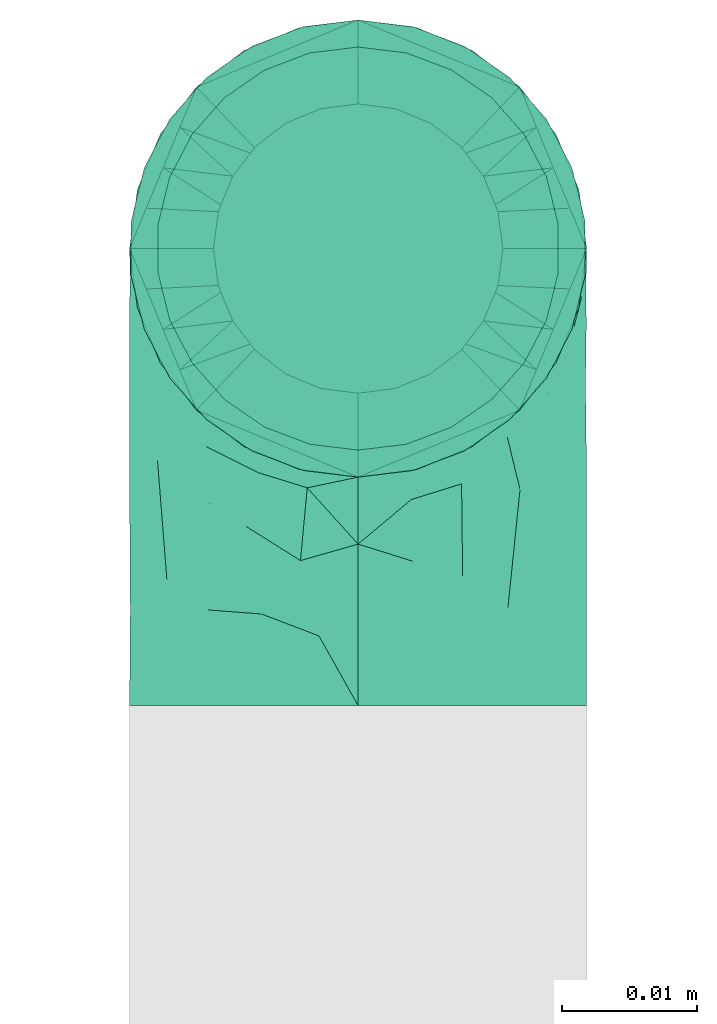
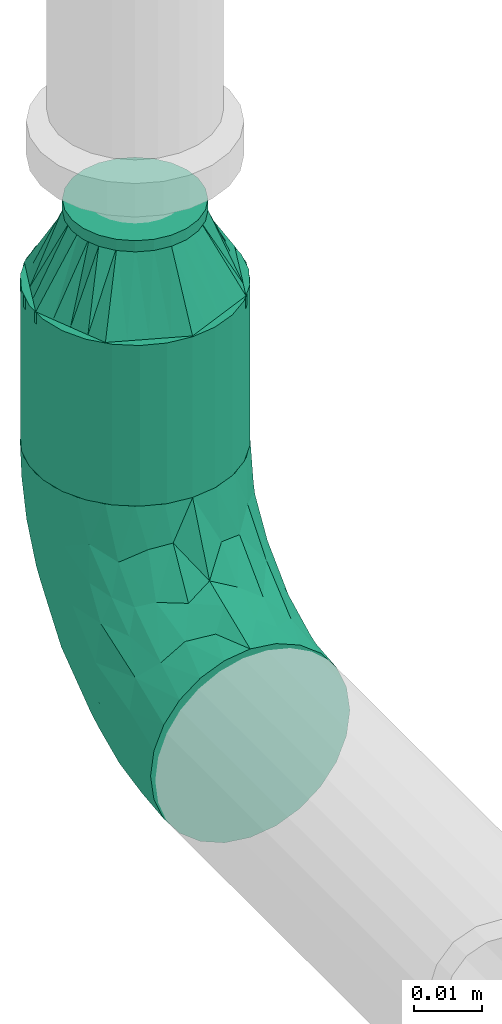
# One storey, part 16 of 31: 2 flow fittings, 1 flow segment.
"""IFC2X3 building model written with IfcOpenShell, lengths in millimetres."""

from ifc_helpers import new_model, entity, si_unit, converted_unit, derived_unit, direction, frame, origin_with_axes, origin_2d_with_axis, place, context, subcontext, project, spatial, hollow_circle, extrude, open_shell, surface_model, source, transform, mapped, type_object, element, save


model = new_model("IFC2X3")

# Units and contexts
model_context = context("Model", 3, precision=0.01, world=frame((0.0, 4.29681676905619e-09, 0.0)), true_north=direction((4.01073788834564e-13, 1.0)))
plan_context = context("Plan", 3, precision=0.01, world=frame((0.0, 4.29681676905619e-09, 0.0)), true_north=direction((4.01073788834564e-13, 1.0)))
body_context = subcontext(model_context, "Body", "Model", "MODEL_VIEW")
ifc_project = project(units=[converted_unit("PLANEANGLEUNIT", "DEGREE", entity("IfcPositiveLengthMeasure", 0.0174532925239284), si_unit("PLANEANGLEUNIT", "RADIAN"), dimensions=[0, 0, 0, 0, 0, 0, 0]), si_unit("AREAUNIT", "SQUARE_METRE"), si_unit("LENGTHUNIT", "METRE", prefix="MILLI"), si_unit("MASSUNIT", "GRAM", prefix="KILO"), si_unit("POWERUNIT", "WATT"), si_unit("PRESSUREUNIT", "PASCAL", prefix="KILO"), si_unit("FORCEUNIT", "NEWTON", prefix="KILO"), si_unit("ELECTRICVOLTAGEUNIT", "VOLT"), si_unit("ELECTRICCURRENTUNIT", "AMPERE"), si_unit("THERMODYNAMICTEMPERATUREUNIT", "DEGREE_CELSIUS"), si_unit("TIMEUNIT", "SECOND"), si_unit("VOLUMEUNIT", "CUBIC_METRE"), derived_unit("LINEARVELOCITYUNIT", [(si_unit("LENGTHUNIT", "METRE"), 1), (si_unit("TIMEUNIT", "SECOND"), -1)]), derived_unit("VOLUMETRICFLOWRATEUNIT", [(si_unit("VOLUMEUNIT", "CUBIC_METRE"), 1), (si_unit("TIMEUNIT", "SECOND"), -1)]), derived_unit("THERMALTRANSMITTANCEUNIT", [(si_unit("POWERUNIT", "WATT"), 1), (si_unit("THERMODYNAMICTEMPERATUREUNIT", "KELVIN"), -1), (si_unit("AREAUNIT", "SQUARE_METRE"), -1)]), derived_unit("SOUNDPRESSUREUNIT", [(si_unit("PRESSUREUNIT", "PASCAL"), 1)])], contexts=[model_context, plan_context])

# Site, building, storey
site_placement = place(None, frame((0.0, -4.29681676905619e-09, 0.0), z_axis=(0.0, 0.0, 1.0), x_axis=(1.0, 0.0, 0.0)))
site = spatial("IfcSite", under=ifc_project, at=site_placement, CompositionType="ELEMENT")
building_placement = place(site_placement, frame((0.0, 4.29681676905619e-09, 0.0), z_axis=(0.0, 0.0, 1.0), x_axis=(1.0, 0.0, 0.0)))
building = spatial("IfcBuilding", under=site, at=building_placement, Name="mc-building", CompositionType="ELEMENT")
storey_placement = place(building_placement, frame((0.0, 0.0, 200300.0), z_axis=(0.0, 0.0, 1.0), x_axis=(1.0, 0.0, 0.0)))
storey = spatial("IfcBuildingStorey", under=building, at=storey_placement, Name="Nivå C", CompositionType="ELEMENT", Elevation=200300.0)

# Flow fittings
pipe_fitting_type_1 = type_object("IfcPipeFittingType", Name="magi_pipe_fe_reducer_centric_short_NOR", PredefinedType="TRANSITION")
shared_shape_1 = source(origin_with_axes(), body_context, "Body", "SurfaceModel", [
    surface_model("IfcShellBasedSurfaceModel", [(14.4, 5.35, -9.26647), (14.4, 0.0, -10.7), (14.4, 2.76936, -10.33541), (14.4, 10.33541, -2.76936), (14.4, 7.56604, -7.56604), (14.4, -10.33541, -2.76936), (14.4, 9.26647, -5.35), (14.4, 0.0, 10.7), (14.4, -5.35, -9.26647), (14.4, -2.76936, -10.33541), (14.4, -7.56604, -7.56604), (14.4, -9.26647, -5.35), (14.4, 10.7, 0.0), (14.4, 10.33541, 2.76936), (14.4, 9.26647, 5.35), (14.4, 7.56604, 7.56604), (14.4, 2.76936, 10.33541), (14.4, 5.35, 9.26647), (14.4, -10.33541, 2.76936), (14.4, -7.56604, 7.56604), (14.4, -9.26647, 5.35), (14.4, -10.7, 0.0), (14.4, -2.76936, 10.33541), (14.4, -5.35, 9.26647), (12.4, 2.76936, 10.33541), (12.4, -10.33541, -2.76936), (12.4, 0.0, 10.7), (12.4, 5.35, 9.26647), (12.4, 7.56604, 7.56604), (12.4, 9.26647, 5.35), (12.4, 10.33541, 2.76936), (12.4, -10.33541, 2.76936), (12.4, -2.76936, 10.33541), (12.4, -7.56604, 7.56604), (12.4, -5.35, 9.26647), (12.4, -9.26647, 5.35), (12.4, -10.7, 0.0), (12.4, 10.33541, -2.76936), (12.4, 5.35, -9.26647), (12.4, 9.26647, -5.35), (12.4, 7.56604, -7.56604), (12.4, 2.76936, -10.33541), (12.4, -9.26647, -5.35), (12.4, -5.35, -9.26647), (12.4, -7.56604, -7.56604), (12.4, 0.0, -10.7), (12.4, -2.76936, -10.33541), (12.4, 10.7, 0.0), (-2.0, 11.9501, 11.9501), (-2.0, 0.0, 16.9), (-2.0, 4.37404, 16.32415), (-2.0, 8.45, 14.63583), (-2.0, 14.63583, 8.45), (-2.0, 16.32415, 4.37404), (-2.0, -16.32415, 4.37404), (-2.0, -8.45, 14.63583), (-2.0, -14.63583, 8.45), (-2.0, -11.9501, 11.9501), (-2.0, -4.37404, 16.32415), (-2.0, -16.32415, -4.37404), (-2.0, -16.9, 0.0), (-2.0, -8.45, -14.63583), (-2.0, 16.32415, -4.37404), (-2.0, 11.9501, -11.9501), (-2.0, 14.63583, -8.45), (-2.0, 8.45, -14.63583), (-2.0, 4.37404, -16.32415), (-2.0, 0.0, -16.9), (-2.0, -11.9501, -11.9501), (-2.0, -14.63583, -8.45), (-2.0, -4.37404, -16.32415), (-2.0, 16.9, 0.0), (0.0, 4.37404, -16.32415), (0.0, 8.45, -14.63583), (0.0, 11.9501, -11.9501), (0.0, 0.0, -16.9), (0.0, 16.32415, -4.37404), (0.0, 16.32415, 4.37404), (0.0, 14.63583, -8.45), (0.0, -8.45, -14.63583), (0.0, -4.37404, -16.32415), (0.0, -11.9501, -11.9501), (0.0, -16.32415, -4.37404), (0.0, -14.63583, -8.45), (0.0, -16.32415, 4.37404), (0.0, 16.9, 0.0), (0.0, 14.63583, 8.45), (0.0, 11.9501, 11.9501), (0.0, 4.37404, 16.32415), (0.0, 8.45, 14.63583), (0.0, 0.0, 16.9), (0.0, -14.63583, 8.45), (0.0, -16.9, 0.0), (0.0, -8.45, 14.63583), (0.0, -11.9501, 11.9501), (0.0, -4.37404, 16.32415), (12.4, 9.3625, -2.31662), (0.0, 14.42505, -5.97505), (0.0, 15.66253, -2.98753), (12.4, -6.6875, -6.94985), (0.0, -13.18758, -8.96258), (0.0, 2.98753, -15.66253), (12.4, 0.0, -9.26647), (12.4, 6.6875, -6.94985), (0.0, 8.96258, -13.18758), (12.4, -9.3625, -2.31662), (0.0, -15.66253, -2.98753), (0.0, -14.42505, -5.97505), (0.0, 5.97505, -14.42505), (0.0, -2.98753, -15.66253), (0.0, -8.96258, -13.18758), (0.0, 13.18758, -8.96258), (12.4, 8.025, -4.63324), (12.4, -2.675, -9.26647), (12.4, 2.675, -9.26647), (0.0, -5.97505, -14.42505), (12.4, -8.025, -4.63324), (12.4, -9.3625, 2.31662), (0.0, -14.42505, 5.97505), (0.0, -15.66253, 2.98753), (12.4, 6.6875, 6.94985), (0.0, 13.18758, 8.96258), (0.0, -2.98753, 15.66253), (12.4, 0.0, 9.26647), (12.4, -6.6875, 6.94985), (0.0, -8.96258, 13.18758), (12.4, 9.3625, 2.31662), (0.0, 15.66253, 2.98753), (0.0, 14.42505, 5.97505), (0.0, -5.97505, 14.42505), (0.0, 2.98753, 15.66253), (0.0, 8.96258, 13.18758), (0.0, -13.18758, 8.96258), (12.4, -8.025, 4.63324), (12.4, 2.675, 9.26647), (12.4, -2.675, 9.26647), (0.0, 5.97505, 14.42505), (12.4, 8.025, 4.63324)], [open_shell([[[0, 1, 2]], [[3, 0, 4]], [[5, 0, 3]], [[3, 4, 6]], [[7, 5, 3]], [[1, 8, 9]], [[1, 0, 8]], [[10, 5, 11]], [[5, 10, 8]], [[0, 5, 8]], [[3, 12, 13]], [[13, 14, 15]], [[13, 15, 16]], [[7, 3, 16]], [[16, 15, 17]], [[7, 18, 5]], [[18, 19, 20]], [[21, 5, 18]], [[19, 22, 23]], [[22, 19, 18]], [[7, 22, 18]], [[13, 16, 3]], [[24, 25, 26]], [[27, 25, 24]], [[28, 29, 30]], [[28, 25, 27]], [[31, 26, 25]], [[32, 33, 34]], [[33, 32, 31]], [[33, 31, 35]], [[32, 26, 31]], [[31, 25, 36]], [[30, 37, 28]], [[25, 28, 37]], [[38, 37, 39]], [[37, 38, 25]], [[38, 39, 40]], [[41, 25, 38]], [[42, 43, 44]], [[43, 42, 25]], [[43, 45, 46]], [[43, 25, 41]], [[41, 45, 43]], [[37, 30, 47]], [[25, 5, 36]], [[42, 11, 25]], [[8, 44, 43]], [[42, 44, 10]], [[9, 43, 46]], [[25, 11, 5]], [[5, 21, 36]], [[9, 8, 43]], [[10, 44, 8]], [[10, 11, 42]], [[1, 9, 46]], [[46, 45, 1]], [[41, 2, 45]], [[38, 0, 41]], [[6, 40, 39]], [[38, 40, 4]], [[3, 39, 37]], [[38, 4, 0]], [[0, 2, 41]], [[12, 3, 37]], [[6, 39, 3]], [[6, 4, 40]], [[47, 12, 37]], [[45, 2, 1]], [[30, 13, 47]], [[29, 14, 30]], [[17, 28, 27]], [[29, 28, 15]], [[16, 27, 24]], [[30, 14, 13]], [[13, 12, 47]], [[16, 17, 27]], [[15, 28, 17]], [[15, 14, 29]], [[7, 16, 24]], [[24, 26, 7]], [[32, 22, 26]], [[34, 23, 32]], [[20, 33, 35]], [[34, 33, 19]], [[18, 35, 31]], [[34, 19, 23]], [[23, 22, 32]], [[21, 18, 31]], [[20, 35, 18]], [[20, 19, 33]], [[36, 21, 31]], [[26, 22, 7]], [[48, 49, 50]], [[48, 50, 51]], [[48, 52, 53]], [[48, 53, 49]], [[49, 53, 54]], [[55, 56, 57]], [[55, 58, 49]], [[56, 55, 49]], [[49, 54, 56]], [[54, 59, 60]], [[54, 53, 61]], [[53, 62, 63]], [[63, 62, 64]], [[63, 65, 66]], [[61, 53, 63]], [[67, 63, 66]], [[59, 68, 69]], [[68, 59, 61]], [[61, 67, 70]], [[59, 54, 61]], [[63, 67, 61]], [[53, 71, 62]], [[72, 73, 74]], [[75, 72, 74]], [[74, 76, 77]], [[76, 74, 78]], [[74, 77, 79]], [[75, 79, 80]], [[75, 74, 79]], [[81, 82, 83]], [[82, 81, 79]], [[79, 84, 82]], [[77, 76, 85]], [[77, 86, 87]], [[77, 87, 88]], [[88, 84, 79]], [[88, 87, 89]], [[84, 88, 90]], [[90, 91, 84]], [[92, 82, 84]], [[91, 93, 94]], [[91, 90, 93]], [[93, 90, 95]], [[79, 77, 88]], [[59, 82, 60]], [[69, 83, 59]], [[79, 68, 61]], [[69, 68, 81]], [[80, 61, 70]], [[59, 83, 82]], [[82, 92, 60]], [[80, 79, 61]], [[81, 68, 79]], [[81, 83, 69]], [[75, 80, 70]], [[70, 67, 75]], [[66, 72, 67]], [[65, 73, 66]], [[78, 63, 64]], [[65, 63, 74]], [[76, 64, 62]], [[65, 74, 73]], [[73, 72, 66]], [[85, 76, 62]], [[78, 64, 76]], [[78, 74, 63]], [[71, 85, 62]], [[67, 72, 75]], [[53, 77, 71]], [[52, 86, 53]], [[89, 48, 51]], [[52, 48, 87]], [[88, 51, 50]], [[53, 86, 77]], [[77, 85, 71]], [[88, 89, 51]], [[87, 48, 89]], [[87, 86, 52]], [[90, 88, 50]], [[50, 49, 90]], [[58, 95, 49]], [[55, 93, 58]], [[91, 57, 56]], [[55, 57, 94]], [[84, 56, 54]], [[55, 94, 93]], [[93, 95, 58]], [[92, 84, 54]], [[91, 56, 84]], [[91, 94, 57]], [[60, 92, 54]], [[49, 95, 90]], [[27, 34, 47]], [[47, 34, 43]], [[43, 38, 47]], [[43, 34, 36]], [[90, 87, 94]], [[92, 94, 87]], [[87, 74, 92]], [[75, 92, 74]], [[81, 92, 75]], [[74, 87, 85]], [[96, 97, 98]], [[81, 99, 100]], [[101, 102, 75]], [[98, 85, 47]], [[74, 103, 104]], [[104, 103, 38]], [[105, 106, 107]], [[38, 108, 104]], [[102, 109, 75]], [[110, 99, 81]], [[47, 96, 98]], [[103, 111, 112]], [[109, 102, 113]], [[36, 92, 106]], [[102, 101, 114]], [[110, 115, 43]], [[96, 112, 97]], [[107, 116, 105]], [[36, 106, 105]], [[113, 115, 109]], [[43, 115, 113]], [[116, 107, 100]], [[108, 38, 114]], [[111, 103, 74]], [[111, 97, 112]], [[99, 110, 43]], [[116, 100, 99]], [[101, 108, 114]], [[117, 118, 119]], [[87, 120, 121]], [[122, 123, 90]], [[119, 92, 36]], [[94, 124, 125]], [[125, 124, 34]], [[126, 127, 128]], [[34, 129, 125]], [[123, 130, 90]], [[131, 120, 87]], [[36, 117, 119]], [[124, 132, 133]], [[130, 123, 134]], [[47, 85, 127]], [[123, 122, 135]], [[131, 136, 27]], [[117, 133, 118]], [[128, 137, 126]], [[47, 127, 126]], [[134, 136, 130]], [[27, 136, 134]], [[137, 128, 121]], [[129, 34, 135]], [[132, 124, 94]], [[132, 118, 133]], [[120, 131, 27]], [[137, 121, 120]], [[122, 129, 135]]])]),
])
flow_fitting_1_placement = place(storey_placement, frame((602500.0, 403933.19532, 2962.64799999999), z_axis=(-1.0, 0.0, 0.0), x_axis=(0.0, 0.0, 1.0)))
element("IfcFlowFitting", 1, at=flow_fitting_1_placement, inside=storey, type_object=pipe_fitting_type_1, Name="magi_pipe_fe_reducer_centric_short_NOR", context=body_context, shape_type="MappedRepresentation", body=[
    mapped(shared_shape_1, transform((0.0, 0.0, 0.0), scale=1.0)),
])
pipe_fitting_type_2 = type_object("IfcPipeFittingType", Name="magi_pipe_fe_elbow_short_001", PredefinedType="BEND")
shared_shape_2 = source(origin_with_axes(), body_context, "Body", "SurfaceModel", [
    surface_model("IfcShellBasedSurfaceModel", [(-33.8, 8.45, -14.63583), (-33.8, 4.37404, -16.32415), (-33.8, 11.9501, -11.9501), (-33.8, -11.9501, -11.9501), (-33.8, -14.63583, -8.45), (-33.8, -8.45, -14.63583), (-33.8, 0.0, -16.9), (-33.8, -4.37404, -16.32415), (-33.8, -4.37404, 16.32415), (-33.8, 0.0, 16.9), (-33.8, -8.45, 14.63583), (-33.8, 16.32415, -4.37404), (-33.8, 14.63583, -8.45), (-33.8, -16.32415, -4.37404), (-33.8, -16.9, 0.0), (-33.8, -16.32415, 4.37404), (-33.8, 11.9501, 11.9501), (-33.8, 14.63583, 8.45), (-33.8, 16.32415, 4.37404), (-33.8, 4.37404, 16.32415), (-33.8, 8.45, 14.63583), (-33.8, -14.63583, 8.45), (-33.8, -11.9501, 11.9501), (-33.8, 16.9, 0.0), (-11.9501, 33.8, -11.9501), (0.0, 33.8, -16.9), (-4.37404, 33.8, -16.32415), (-8.45, 33.8, -14.63583), (-14.63583, 33.8, -8.45), (-16.32415, 33.8, -4.37404), (14.63583, 33.8, -8.45), (8.45, 33.8, 14.63583), (16.32415, 33.8, -4.37404), (8.45, 33.8, -14.63583), (11.9501, 33.8, -11.9501), (4.37404, 33.8, -16.32415), (16.32415, 33.8, 4.37404), (16.9, 33.8, 0.0), (-11.9501, 33.8, 11.9501), (-16.32415, 33.8, 4.37404), (-14.63583, 33.8, 8.45), (-8.45, 33.8, 14.63583), (-4.37404, 33.8, 16.32415), (11.9501, 33.8, 11.9501), (14.63583, 33.8, 8.45), (0.0, 33.8, 16.9), (4.37404, 33.8, 16.32415), (-16.9, 33.8, 0.0), (-24.79389, -13.12945, 9.48721), (-22.19287, -9.75018, 12.59315), (-24.09897, -14.97035, 0.0), (-14.93934, -10.76256, 8.5297), (-22.46095, -14.75051, 5.27077), (14.75051, 22.46094, 5.27077), (11.9251, 13.23888, 4.33236), (13.04069, 14.39795, 0.0), (7.71387, 13.68847, 11.55891), (9.75018, 22.19287, 12.59315), (4.10169, 13.0571, 14.04018), (-24.84007, -6.39063, 15.2048), (-25.81779, -2.23879, 16.61097), (-23.66549, 2.59054, 16.87119), (-26.50418, 14.06512, 11.08152), (-24.21253, 17.66365, 7.72657), (-29.58514, 15.86957, 7.00283), (-6.17382, -7.5455, 0.0), (-13.23888, -11.9251, 4.33236), (-14.39795, -13.04069, 0.0), (-17.81434, 18.87373, 11.97104), (-6.30846, 29.15138, 15.82987), (-2.31622, 25.28002, 16.85849), (-29.23923, 10.23435, 13.77053), (-1.45439, -2.85688, 7.61475), (-0.28326, 0.34872, 10.09509), (-5.74484, -4.04709, 10.4122), (-4.41137, 11.31918, 16.59407), (-8.39727, 3.10034, 15.7812), (-1.72649, 9.1306, 15.53089), (-17.39909, 24.75344, 7.64977), (-26.19233, 20.0512, 0.0), (-28.14518, 17.29657, 4.25857), (-26.05147, 6.6281, 15.96447), (-5.87354, 16.61944, 16.86968), (-12.51807, 12.51807, 16.48937), (-10.06312, 7.38516, 16.81295), (-3.01882, 3.01882, 13.81718), (-13.0571, -4.10169, 14.04018), (-16.82553, -0.15166, 16.38038), (10.76256, 14.93934, 8.5297), (13.12945, 24.79389, 9.48721), (6.39063, 24.84007, 15.2048), (2.23879, 25.81779, 16.61097), (-13.68847, -7.71387, 11.55891), (14.97035, 24.09897, 0.0), (-7.30894, 22.89991, 16.09489), (-10.67958, 26.17414, 14.008), (-12.78295, 18.26924, 15.06066), (-13.88562, 22.45231, 12.93244), (-18.04944, 15.16501, 14.04434), (-23.11658, 20.08178, 4.02986), (-21.84989, 21.84989, 0.0), (-18.55817, 25.48277, 3.93065), (-13.95142, 26.94732, 11.03289), (-18.57098, 7.23906, 16.59756), (-16.58335, 4.14122, 16.89279), (-17.96666, 11.46709, 15.63151), (-9.84453, 17.54304, 16.18938), (0.15166, 16.82553, 16.38038), (-23.27207, 11.47201, 14.23154), (3.84842, 5.86994, 10.70473), (-8.0212, -7.54413, 7.93275), (1.00345, -2.19508, 4.57414), (5.13203, 3.01004, 5.90201), (5.24161, 1.7543, 2.53265), (8.70457, 7.04947, 3.99182), (-20.0512, 26.19233, 0.0), (8.4852, 8.76699, 7.09296), (-4.55488, -6.72064, 4.90681), (2.05031, -2.05031, 0.0), (7.5455, 6.17382, 0.0), (-26.75399, 2.1369, -16.845), (-14.61995, 24.73803, -11.27736), (-28.45274, -13.45335, -9.81895), (-26.00469, 6.63555, -15.96645), (-23.06726, 20.04573, -4.26202), (-13.80647, -4.26506, -14.17873), (-14.67501, -0.21081, -16.07388), (-6.7902, -0.2828, -13.8478), (-24.53586, 11.08096, -14.13417), (-26.72048, 14.00837, -11.05776), (10.0967, 24.44989, -12.75976), (5.83237, 21.40218, -15.03047), (6.66249, 28.54238, -15.38093), (-20.38182, 15.48705, -12.74596), (12.53268, 21.23441, -9.15363), (12.54494, 15.67504, -5.54878), (9.7522, 12.89279, -8.66343), (-15.65186, 19.64213, -13.01327), (-12.03528, 20.66498, -14.67665), (-15.61907, 15.61906, -14.83879), (-25.56551, -15.26206, 0.0), (-24.65452, -15.12934, -5.50955), (13.45335, 28.45274, -9.81895), (15.12934, 24.65452, -5.50955), (-7.35442, -8.31014, -5.65563), (-15.67504, -12.54494, -5.54878), (-24.44989, -10.0967, -12.75976), (0.16522, 0.41303, -9.71728), (-5.70658, -5.33066, -8.89288), (-5.13869, -2.37198, -11.53565), (-21.23441, -12.53268, -9.15363), (0.71146, 7.93863, -14.09382), (0.21081, 14.67501, -16.07388), (3.49291, 14.42772, -14.76381), (-24.89911, -2.13088, -16.591), (-28.54238, -6.66249, -15.38093), (-18.44386, -7.71663, -13.26957), (2.13088, 24.89911, -16.591), (-28.64342, 17.44413, -2.89318), (1.70017, -1.28722, -5.09504), (-16.57067, 26.81947, -7.36596), (-17.69055, 27.4263, -3.76405), (-12.89279, -9.7522, -8.66343), (-5.96611, 5.96611, -15.95814), (-20.53709, 20.09345, -8.28985), (-2.1369, 26.75399, -16.845), (-6.89872, 24.58781, -16.02578), (-10.60739, 26.53157, -13.98044), (-21.40218, -5.83237, -15.03047), (2.93192, 5.89627, -11.55917), (6.89393, 12.61842, -11.82233), (5.58056, 5.95325, -8.79455), (-3.99512, 18.61798, -16.89635), (8.31014, 7.35442, -5.65563), (-9.1383, 9.86148, -16.89041), (-9.99983, 16.02119, -16.39699), (-16.68576, 9.78031, -16.34199), (-27.01915, 16.61158, -7.12979), (15.26206, 25.56551, 0.0), (-18.61798, 3.99512, -16.89635), (-19.37495, 27.82495, 0.0), (-12.61842, -6.89393, -11.82233), (-18.84705, 19.14018, -10.96545)], [open_shell([[[0, 1, 2]], [[3, 4, 5]], [[6, 7, 5]], [[8, 9, 10]], [[1, 6, 2]], [[11, 12, 2]], [[4, 2, 6]], [[2, 13, 10]], [[5, 4, 6]], [[2, 4, 13]], [[14, 15, 13]], [[11, 2, 16]], [[11, 17, 18]], [[11, 16, 17]], [[19, 20, 16]], [[16, 2, 10]], [[19, 16, 10]], [[21, 22, 15]], [[22, 13, 15]], [[22, 10, 13]], [[10, 9, 19]], [[11, 18, 23]], [[24, 25, 26]], [[24, 26, 27]], [[24, 28, 29]], [[25, 24, 30]], [[31, 32, 24]], [[33, 30, 34]], [[33, 35, 25]], [[25, 30, 33]], [[32, 30, 24]], [[32, 36, 37]], [[38, 24, 29]], [[39, 40, 29]], [[40, 38, 29]], [[38, 41, 42]], [[38, 31, 24]], [[31, 38, 42]], [[36, 43, 44]], [[36, 32, 43]], [[31, 45, 46]], [[32, 31, 43]], [[42, 45, 31]], [[39, 29, 47]], [[22, 48, 49]], [[15, 14, 50]], [[51, 48, 52]], [[53, 54, 55]], [[48, 22, 21]], [[15, 52, 21]], [[56, 57, 58]], [[49, 10, 22]], [[49, 59, 10]], [[9, 60, 61]], [[62, 63, 64]], [[65, 66, 67]], [[57, 43, 31]], [[62, 68, 63]], [[42, 69, 70]], [[20, 71, 16]], [[8, 60, 9]], [[72, 73, 74]], [[75, 76, 77]], [[16, 62, 17]], [[40, 39, 78]], [[79, 23, 80]], [[64, 18, 17]], [[9, 61, 19]], [[19, 81, 20]], [[82, 83, 84]], [[74, 85, 86]], [[59, 86, 87]], [[88, 89, 57]], [[90, 31, 46]], [[44, 53, 36]], [[46, 45, 91]], [[54, 53, 88]], [[44, 89, 53]], [[92, 86, 49]], [[89, 44, 43]], [[10, 59, 8]], [[53, 55, 93]], [[93, 36, 53]], [[66, 52, 67]], [[94, 82, 70]], [[95, 96, 94]], [[97, 98, 96]], [[79, 99, 100]], [[41, 38, 95]], [[101, 100, 99]], [[68, 78, 63]], [[42, 41, 69]], [[23, 18, 80]], [[95, 94, 69]], [[78, 101, 99]], [[38, 102, 95]], [[70, 45, 42]], [[97, 95, 102]], [[15, 50, 52]], [[90, 57, 31]], [[57, 90, 58]], [[81, 19, 61]], [[103, 104, 84]], [[105, 81, 103]], [[38, 40, 102]], [[106, 96, 83]], [[94, 106, 82]], [[91, 70, 107]], [[71, 62, 16]], [[62, 108, 98]], [[86, 59, 49]], [[67, 52, 50]], [[60, 59, 87]], [[92, 49, 51]], [[86, 85, 76]], [[91, 90, 46]], [[37, 36, 93]], [[107, 77, 58]], [[107, 58, 90]], [[58, 85, 109]], [[110, 74, 92]], [[72, 74, 110]], [[66, 51, 52]], [[72, 111, 112]], [[113, 114, 112]], [[56, 88, 57]], [[52, 48, 21]], [[49, 48, 51]], [[57, 89, 43]], [[53, 89, 88]], [[103, 81, 61]], [[71, 81, 108]], [[18, 64, 80]], [[63, 78, 99]], [[47, 115, 101]], [[101, 115, 100]], [[40, 78, 102]], [[68, 102, 78]], [[97, 96, 95]], [[105, 98, 108]], [[103, 84, 83]], [[107, 70, 82]], [[76, 84, 87]], [[82, 84, 75]], [[70, 91, 45]], [[90, 91, 107]], [[59, 60, 8]], [[61, 60, 87]], [[73, 85, 74]], [[109, 112, 116]], [[103, 61, 104]], [[105, 103, 83]], [[96, 105, 83]], [[81, 105, 108]], [[96, 98, 105]], [[62, 98, 68]], [[61, 87, 104]], [[87, 84, 104]], [[86, 76, 87]], [[77, 76, 85]], [[58, 77, 85]], [[75, 77, 107]], [[82, 75, 107]], [[76, 75, 84]], [[81, 71, 20]], [[62, 71, 108]], [[95, 69, 41]], [[70, 69, 94]], [[62, 64, 17]], [[80, 63, 99]], [[63, 80, 64]], [[80, 99, 79]], [[66, 65, 117]], [[110, 66, 117]], [[112, 114, 116]], [[118, 117, 65]], [[110, 92, 51]], [[112, 111, 113]], [[119, 55, 54]], [[74, 86, 92]], [[58, 109, 56]], [[116, 56, 109]], [[66, 110, 51]], [[72, 110, 117]], [[111, 72, 117]], [[73, 112, 109]], [[117, 118, 111]], [[113, 111, 118]], [[118, 119, 113]], [[114, 119, 54]], [[119, 114, 113]], [[116, 54, 88]], [[54, 116, 114]], [[116, 88, 56]], [[112, 73, 72]], [[85, 73, 109]], [[78, 39, 101]], [[47, 101, 39]], [[102, 68, 97]], [[97, 68, 98]], [[82, 106, 83]], [[94, 96, 106]], [[1, 120, 6]], [[28, 24, 121]], [[3, 122, 4]], [[0, 123, 1]], [[100, 124, 79]], [[125, 126, 127]], [[128, 2, 129]], [[130, 131, 132]], [[128, 129, 133]], [[134, 135, 136]], [[137, 138, 139]], [[128, 0, 2]], [[67, 140, 141]], [[134, 142, 143]], [[141, 13, 4]], [[144, 65, 145]], [[146, 3, 5]], [[147, 148, 149]], [[145, 141, 150]], [[151, 152, 153]], [[154, 7, 6]], [[5, 155, 146]], [[150, 146, 156]], [[155, 5, 7]], [[143, 135, 134]], [[35, 157, 25]], [[23, 79, 158]], [[148, 159, 144]], [[160, 161, 29]], [[145, 162, 144]], [[163, 152, 151]], [[29, 28, 160]], [[121, 164, 160]], [[33, 34, 130]], [[25, 165, 26]], [[26, 165, 166]], [[142, 34, 30]], [[24, 27, 167]], [[124, 161, 164]], [[157, 35, 132]], [[155, 154, 168]], [[123, 0, 128]], [[169, 170, 171]], [[172, 157, 152]], [[26, 166, 27]], [[132, 35, 33]], [[142, 130, 34]], [[168, 154, 126]], [[136, 135, 173]], [[133, 137, 139]], [[2, 12, 129]], [[170, 131, 130]], [[30, 32, 143]], [[172, 174, 175]], [[176, 123, 128]], [[158, 177, 11]], [[135, 55, 119]], [[167, 27, 166]], [[175, 166, 172]], [[137, 167, 138]], [[122, 141, 4]], [[140, 14, 13]], [[32, 37, 178]], [[170, 130, 134]], [[152, 157, 131]], [[165, 157, 172]], [[153, 170, 151]], [[152, 163, 174]], [[168, 125, 156]], [[122, 146, 150]], [[120, 154, 6]], [[179, 174, 126]], [[179, 126, 154]], [[126, 163, 127]], [[162, 145, 150]], [[140, 13, 141]], [[32, 178, 143]], [[55, 143, 178]], [[177, 129, 12]], [[128, 133, 139]], [[176, 128, 139]], [[120, 123, 179]], [[121, 160, 28]], [[161, 100, 180]], [[166, 175, 138]], [[121, 24, 167]], [[161, 47, 29]], [[79, 124, 158]], [[124, 164, 177]], [[161, 124, 100]], [[136, 171, 170]], [[127, 163, 151]], [[147, 171, 159]], [[148, 144, 162]], [[127, 151, 169]], [[127, 181, 125]], [[129, 177, 164]], [[12, 11, 177]], [[159, 65, 144]], [[67, 141, 145]], [[143, 55, 135]], [[135, 119, 173]], [[123, 120, 1]], [[154, 120, 179]], [[157, 165, 25]], [[166, 165, 172]], [[172, 152, 174]], [[176, 139, 175]], [[126, 174, 163]], [[176, 174, 179]], [[174, 176, 175]], [[123, 176, 179]], [[150, 181, 162]], [[127, 149, 181]], [[181, 148, 162]], [[159, 148, 147]], [[171, 136, 173]], [[170, 134, 136]], [[159, 171, 173]], [[171, 147, 169]], [[169, 147, 149]], [[151, 170, 169]], [[164, 182, 129]], [[182, 121, 137]], [[181, 149, 148]], [[169, 149, 127]], [[182, 137, 133]], [[167, 137, 121]], [[166, 138, 167]], [[175, 139, 138]], [[129, 182, 133]], [[121, 182, 164]], [[161, 160, 164]], [[47, 161, 180]], [[177, 158, 124]], [[23, 158, 11]], [[130, 132, 33]], [[157, 132, 131]], [[143, 142, 30]], [[130, 142, 134]], [[154, 155, 7]], [[146, 155, 168]], [[146, 122, 3]], [[141, 122, 150]], [[152, 131, 153]], [[159, 119, 118]], [[67, 145, 65]], [[170, 153, 131]], [[119, 159, 173]], [[159, 118, 65]], [[156, 125, 181]], [[126, 125, 168]], [[150, 156, 181]], [[168, 156, 146]]])]),
])
flow_fitting_2_placement = place(storey_placement, frame((602500.0, 403933.19532, 2900.0), z_axis=(1.0, 0.0, 0.0), x_axis=(0.0, 1.0, 0.0)))
element("IfcFlowFitting", 2, at=flow_fitting_2_placement, inside=storey, type_object=pipe_fitting_type_2, Name="magi_pipe_fe_elbow_short_001", context=body_context, shape_type="MappedRepresentation", body=[
    mapped(shared_shape_2, transform((0.0, 0.0, 0.0), scale=1.0)),
])

# Flow segment
pipe_segment_type = type_object("IfcPipeSegmentType", Name="Stålrør normaltykke", PredefinedType="RIGIDSEGMENT")
shared_shape_3 = source(origin_with_axes(), body_context, "Body", "SweptSolid", [
    extrude(hollow_circle(Radius=16.9, WallThickness=2.0, at=origin_2d_with_axis()), frame((0.0, 0.0, 0.0), z_axis=(1.0, 0.0, 0.0), x_axis=(0.0, 1.0, 0.0)), (0.0, 0.0, 1.0), 28.8),
])
flow_segment_placement = place(storey_placement, frame((602500.0, 403933.19532, 2933.79999999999), z_axis=(-1.0, 0.0, 0.0), x_axis=(0.0, 0.0, 1.0)))
element("IfcFlowSegment", 3, at=flow_segment_placement, inside=storey, type_object=pipe_segment_type, Name="Stålrør normaltykke", context=body_context, shape_type="MappedRepresentation", body=[
    mapped(shared_shape_3, transform((0.0, 0.0, 0.0), scale=1.0)),
])

save(model, "model.ifc")
